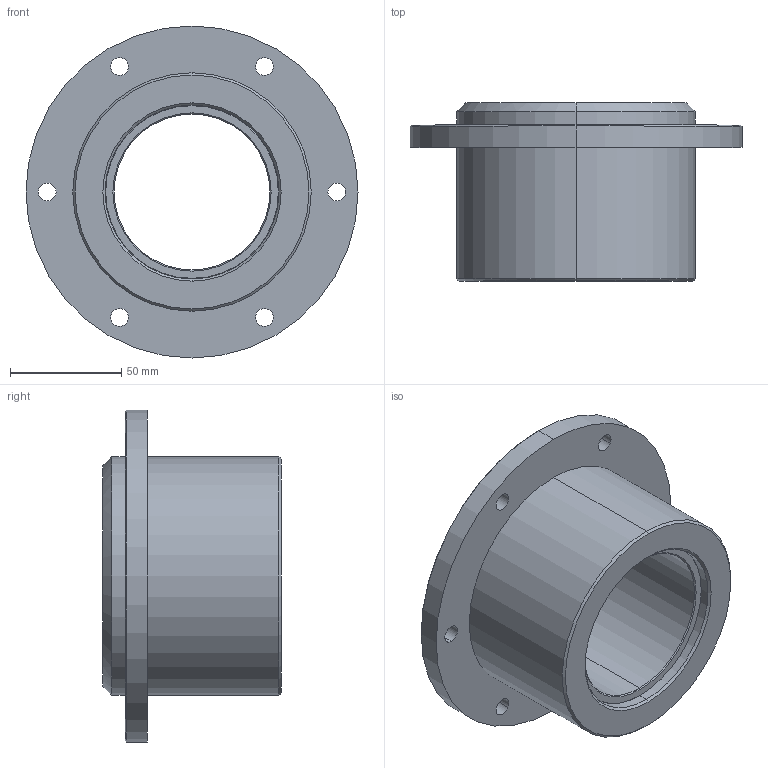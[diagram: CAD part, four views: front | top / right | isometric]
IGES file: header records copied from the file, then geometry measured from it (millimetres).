
Start section: 3D InterOp IGES (Version 20 0 1), Spatial Corp. Copyright (c) 1999-2007.
Global section: file name: 10.13.07.igs; native system: Spatial Corp.; preprocessor: 3D InterOp GENERIC/IGES 3.0; author: Noname; organization: Noname; date: 20111110.165004; units: metre
Bounding box: 149 x 80 x 149 mm (x, y, z)
Surface area: 108715.7 mm2 (no closed solid volume)
Topology: 0 solids, 0 shells, 87 faces, 1078 edges, 1752 vertices
Faces by surface type: revolution 72, extrusion 15
